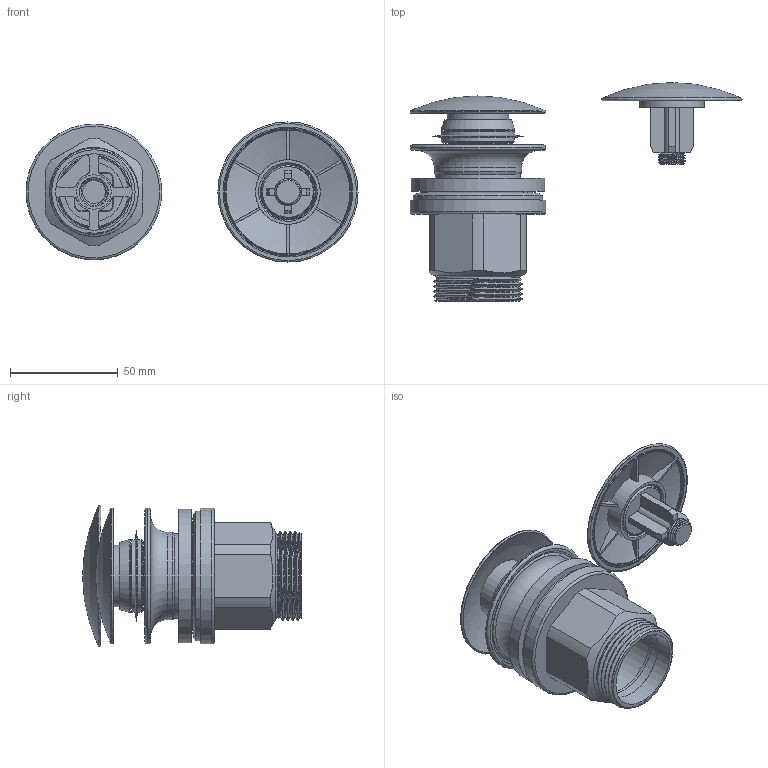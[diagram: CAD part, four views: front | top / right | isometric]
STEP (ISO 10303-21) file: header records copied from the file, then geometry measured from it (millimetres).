
FILE_DESCRIPTION(/* description */ (''),/* implementation_level */ '2;1');
FILE_NAME(/* name */ 'c:\worker\convert-fusion-r09\tmp\job-1\53\output\files\33f87249-c27e-413a-9a97-880205a3ecd2\221e6f00-e295-4ede-95a2-e3d583b665ca.stp',/* time_stamp */ '2019-12-12T14:34:10+00:00',/* author */ (''),/* organization */ (''),/* preprocessor_version */ 'ST-DEVELOPER v18',/* originating_system */ 'Autodesk Translation Framework v8.12.0.6',/* authorisation */ '');
FILE_SCHEMA (('AUTOMOTIVE_DESIGN { 1 0 10303 214 3 1 1 }'));
Products named in the file (1): A64
Bounding box: 154.01 x 101.5 x 65.01 mm (x, y, z)
Volume: 91263.8 mm3; surface area: 97398.7 mm2
Topology: 12 solids, 13 shells, 681 faces, 1826 edges, 1172 vertices
Faces by surface type: cylinder 309, plane 187, torus 94, bspline 40, cone 37, sphere 14
Full cylindrical faces by diameter (mm): 9 x1, 10 x1, 11.2 x6, 11.5 x1, 12.5 x2, 13.2 x4, 16 x1, 24 x8, 25.2 x10, 25.5 x5, 26 x12, 28.5 x1, 30 x1, 30.5 x2, 33 x1, 33.8 x2, 35.5 x1, 36 x1, 36.5 x1, 38.2 x15, 39 x1, 39.5 x1, 39.6 x10, 40.5 x1, 41.2 x11, 42 x15, 42.3 x1, 57.5 x1, 58 x1, 59 x1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
Entity records: 51168 total; most frequent: CARTESIAN_POINT 34351, ORIENTED_EDGE 3608, DIRECTION 3477, EDGE_CURVE 1804, AXIS2_PLACEMENT_3D 1404, VERTEX_POINT 1172, CIRCLE 761, EDGE_LOOP 734
